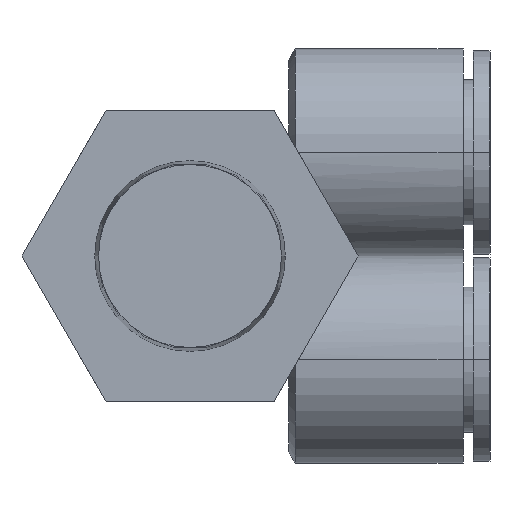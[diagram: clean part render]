
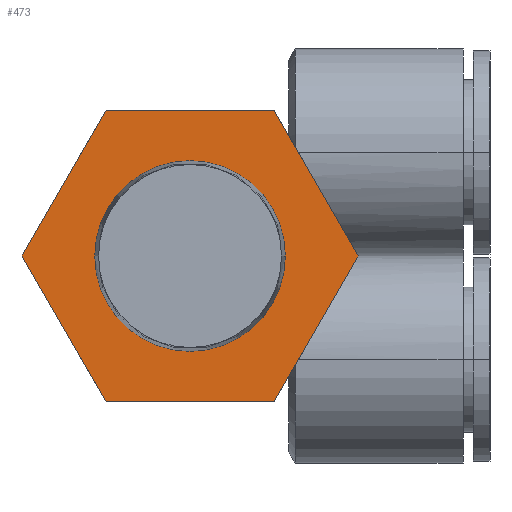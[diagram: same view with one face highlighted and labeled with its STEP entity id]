
A CAD part, front view. The second image highlights one B-rep face of the part: STEP entity #473.
In plain terms, the highlighted planar face has unit normal (0, -1, 0).
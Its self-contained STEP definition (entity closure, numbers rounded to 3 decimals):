
#26 = FACE_OUTER_BOUND ( 'NONE', #1733, .T. ) ;
#116 = LINE ( 'NONE', #3815, #662 ) ;
#190 = DIRECTION ( 'NONE',  ( -0.5, 0., -0.866 ) ) ;
#239 = VERTEX_POINT ( 'NONE', #3845 ) ;
#279 = DIRECTION ( 'NONE',  ( 1., 0., 0. ) ) ;
#336 = EDGE_CURVE ( 'NONE', #239, #644, #824, .T. ) ;
#341 = CARTESIAN_POINT ( 'NONE',  ( -8.512, 5.8, 0. ) ) ;
#473 = ADVANCED_FACE ( 'NONE', ( #26, #2824 ), #934, .F. ) ;
#521 = LINE ( 'NONE', #1742, #3980 ) ;
#567 = DIRECTION ( 'NONE',  ( 0., 1., 0. ) ) ;
#616 = CIRCLE ( 'NONE', #2875, 8.512 ) ;
#618 = DIRECTION ( 'NONE',  ( 0., 1., 0. ) ) ;
#644 = VERTEX_POINT ( 'NONE', #2569 ) ;
#662 = VECTOR ( 'NONE', #2274, 1000. ) ;
#667 = DIRECTION ( 'NONE',  ( -1., 0., 0. ) ) ;
#778 = VECTOR ( 'NONE', #3613, 1000. ) ;
#824 = LINE ( 'NONE', #3543, #2945 ) ;
#828 = CARTESIAN_POINT ( 'NONE',  ( 7.506, 5.8, 13. ) ) ;
#843 = EDGE_CURVE ( 'NONE', #2326, #1106, #116, .T. ) ;
#905 = VECTOR ( 'NONE', #1495, 1000. ) ;
#930 = VECTOR ( 'NONE', #190, 1000. ) ;
#934 = PLANE ( 'NONE',  #1138 ) ;
#937 = EDGE_CURVE ( 'NONE', #644, #2326, #521, .T. ) ;
#988 = CARTESIAN_POINT ( 'NONE',  ( -8.512, 5.8, 0. ) ) ;
#1022 = ORIENTED_EDGE ( 'NONE', *, *, #3659, .T. ) ;
#1106 = VERTEX_POINT ( 'NONE', #1675 ) ;
#1112 = LINE ( 'NONE', #2309, #930 ) ;
#1113 = ORIENTED_EDGE ( 'NONE', *, *, #1677, .T. ) ;
#1138 = AXIS2_PLACEMENT_3D ( 'NONE', #341, #618, #279 ) ;
#1153 = ORIENTED_EDGE ( 'NONE', *, *, #336, .T. ) ;
#1202 = CARTESIAN_POINT ( 'NONE',  ( -7.506, 5.8, 13. ) ) ;
#1294 = EDGE_CURVE ( 'NONE', #2159, #2667, #1740, .T. ) ;
#1467 = ORIENTED_EDGE ( 'NONE', *, *, #843, .T. ) ;
#1495 = DIRECTION ( 'NONE',  ( -0.5, 0., 0.866 ) ) ;
#1515 = CARTESIAN_POINT ( 'NONE',  ( 9.13, 5.8, 10.186 ) ) ;
#1675 = CARTESIAN_POINT ( 'NONE',  ( 15.011, 5.8, 0. ) ) ;
#1677 = EDGE_CURVE ( 'NONE', #2058, #3004, #2973, .T. ) ;
#1733 = EDGE_LOOP ( 'NONE', ( #1022, #1153, #2369, #1467, #2715, #2371 ) ) ;
#1740 = LINE ( 'NONE', #1994, #778 ) ;
#1742 = CARTESIAN_POINT ( 'NONE',  ( -8.512, 5.8, -13. ) ) ;
#1794 = ORIENTED_EDGE ( 'NONE', *, *, #2098, .T. ) ;
#1806 = LINE ( 'NONE', #1515, #905 ) ;
#1994 = CARTESIAN_POINT ( 'NONE',  ( -8.512, 5.8, 13. ) ) ;
#2032 = CARTESIAN_POINT ( 'NONE',  ( 0., 5.8, 0. ) ) ;
#2058 = VERTEX_POINT ( 'NONE', #988 ) ;
#2098 = EDGE_CURVE ( 'NONE', #3004, #2058, #616, .T. ) ;
#2159 = VERTEX_POINT ( 'NONE', #828 ) ;
#2274 = DIRECTION ( 'NONE',  ( 0.5, 0., 0.866 ) ) ;
#2309 = CARTESIAN_POINT ( 'NONE',  ( -13.386, 5.8, 2.814 ) ) ;
#2326 = VERTEX_POINT ( 'NONE', #3745 ) ;
#2328 = AXIS2_PLACEMENT_3D ( 'NONE', #3444, #3791, #667 ) ;
#2369 = ORIENTED_EDGE ( 'NONE', *, *, #937, .T. ) ;
#2371 = ORIENTED_EDGE ( 'NONE', *, *, #1294, .T. ) ;
#2569 = CARTESIAN_POINT ( 'NONE',  ( -7.506, 5.8, -13. ) ) ;
#2573 = CARTESIAN_POINT ( 'NONE',  ( 8.512, 5.8, 0. ) ) ;
#2635 = DIRECTION ( 'NONE',  ( 1., 0., 0. ) ) ;
#2667 = VERTEX_POINT ( 'NONE', #1202 ) ;
#2669 = DIRECTION ( 'NONE',  ( -1., 0., 0. ) ) ;
#2704 = DIRECTION ( 'NONE',  ( 0.5, 0., -0.866 ) ) ;
#2715 = ORIENTED_EDGE ( 'NONE', *, *, #2821, .T. ) ;
#2821 = EDGE_CURVE ( 'NONE', #1106, #2159, #1806, .T. ) ;
#2824 = FACE_BOUND ( 'NONE', #3123, .T. ) ;
#2875 = AXIS2_PLACEMENT_3D ( 'NONE', #2032, #567, #2669 ) ;
#2945 = VECTOR ( 'NONE', #2704, 1000. ) ;
#2973 = CIRCLE ( 'NONE', #2328, 8.512 ) ;
#3004 = VERTEX_POINT ( 'NONE', #2573 ) ;
#3123 = EDGE_LOOP ( 'NONE', ( #1113, #1794 ) ) ;
#3444 = CARTESIAN_POINT ( 'NONE',  ( 0., 5.8, 0. ) ) ;
#3543 = CARTESIAN_POINT ( 'NONE',  ( -13.386, 5.8, -2.814 ) ) ;
#3613 = DIRECTION ( 'NONE',  ( -1., 0., 0. ) ) ;
#3659 = EDGE_CURVE ( 'NONE', #2667, #239, #1112, .T. ) ;
#3745 = CARTESIAN_POINT ( 'NONE',  ( 7.506, 5.8, -13. ) ) ;
#3791 = DIRECTION ( 'NONE',  ( 0., 1., 0. ) ) ;
#3815 = CARTESIAN_POINT ( 'NONE',  ( 9.13, 5.8, -10.186 ) ) ;
#3845 = CARTESIAN_POINT ( 'NONE',  ( -15.011, 5.8, 0. ) ) ;
#3980 = VECTOR ( 'NONE', #2635, 1000. ) ;
